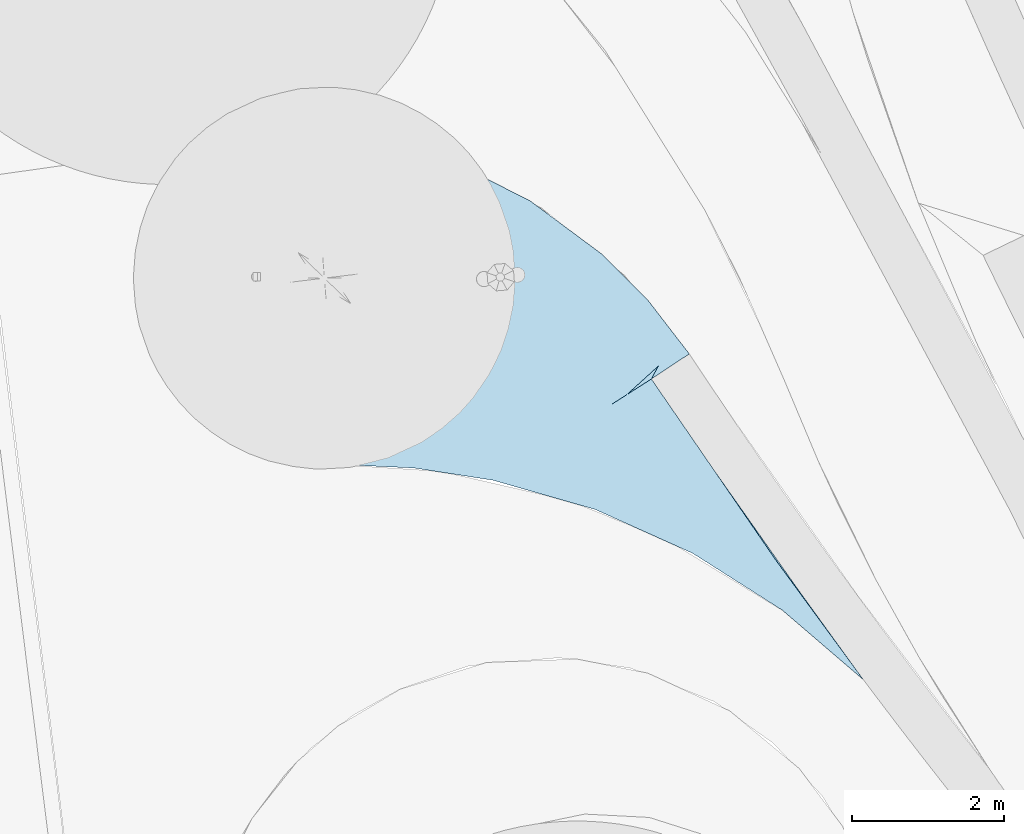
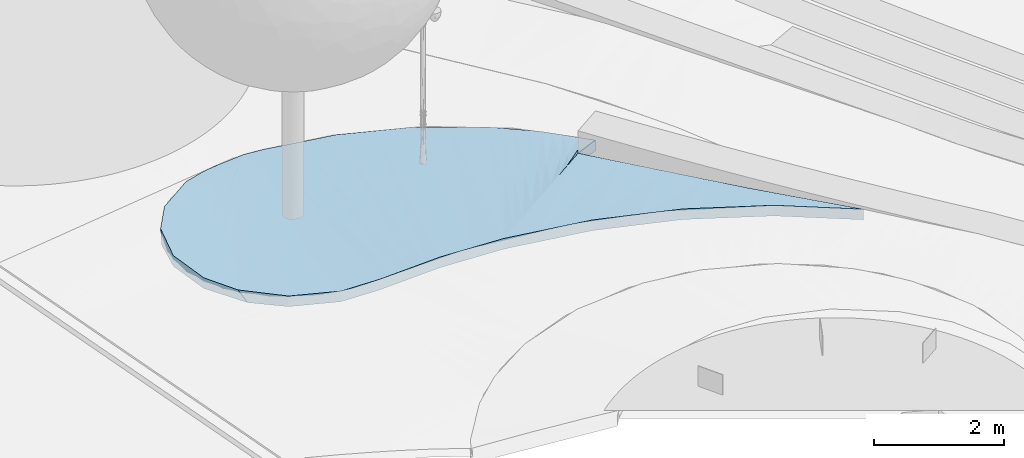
# One storey, part 42 of 75: 1 slab.
"""IFC2X3 building model written with IfcOpenShell, lengths in metres."""

from ifc_helpers import new_model, entity, si_unit, converted_unit, derived_unit, direction, origin, place, context, subcontext, project, spatial, face_set, surface_model, material, layer, layer_set, type_object, element, save


model = new_model("IFC2X3")

# Units and contexts
model_context = context("Model", 3, precision=1e-05, world=origin(), true_north=direction((6.123031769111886e-17, 1.0)))
body_context = subcontext(model_context, "Body", "Model", "MODEL_VIEW")
ifc_project = project(units=[si_unit("LENGTHUNIT", "METRE"), si_unit("AREAUNIT", "SQUARE_METRE"), si_unit("VOLUMEUNIT", "CUBIC_METRE"), converted_unit("PLANEANGLEUNIT", "DEGREE", entity("IfcRatioMeasure", 0.017453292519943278), si_unit("PLANEANGLEUNIT", "RADIAN"), dimensions=[0, 0, 0, 0, 0, 0, 0]), si_unit("MASSUNIT", "GRAM", prefix="KILO"), derived_unit("MASSDENSITYUNIT", [(si_unit("MASSUNIT", "GRAM", prefix="KILO"), 1), (si_unit("LENGTHUNIT", "METRE"), -3)]), derived_unit("IONCONCENTRATIONUNIT", [(si_unit("MASSUNIT", "GRAM", prefix="KILO"), 1), (si_unit("LENGTHUNIT", "METRE"), -3)]), derived_unit("MOMENTOFINERTIAUNIT", [(si_unit("LENGTHUNIT", "METRE"), 4)]), si_unit("TIMEUNIT", "SECOND"), si_unit("FREQUENCYUNIT", "HERTZ"), si_unit("THERMODYNAMICTEMPERATUREUNIT", "DEGREE_CELSIUS"), derived_unit("THERMALTRANSMITTANCEUNIT", [(si_unit("MASSUNIT", "GRAM", prefix="KILO"), 1), (si_unit("THERMODYNAMICTEMPERATUREUNIT", "KELVIN"), -1), (si_unit("TIMEUNIT", "SECOND"), -3)]), derived_unit("THERMALCONDUCTANCEUNIT", [(si_unit("MASSUNIT", "GRAM", prefix="KILO"), 1), (si_unit("THERMODYNAMICTEMPERATUREUNIT", "KELVIN"), -1), (si_unit("TIMEUNIT", "SECOND"), -3), (si_unit("LENGTHUNIT", "METRE"), 1)]), derived_unit("VOLUMETRICFLOWRATEUNIT", [(si_unit("LENGTHUNIT", "METRE"), 3), (si_unit("TIMEUNIT", "SECOND"), -1)]), derived_unit("MASSFLOWRATEUNIT", [(si_unit("MASSUNIT", "GRAM", prefix="KILO"), 1), (si_unit("TIMEUNIT", "SECOND"), -1)]), derived_unit("ROTATIONALFREQUENCYUNIT", [(si_unit("TIMEUNIT", "SECOND"), -1)]), si_unit("ELECTRICCURRENTUNIT", "AMPERE"), si_unit("ELECTRICVOLTAGEUNIT", "VOLT"), si_unit("POWERUNIT", "WATT"), si_unit("FORCEUNIT", "NEWTON", prefix="KILO"), si_unit("ILLUMINANCEUNIT", "LUX"), si_unit("LUMINOUSFLUXUNIT", "LUMEN"), si_unit("LUMINOUSINTENSITYUNIT", "CANDELA"), derived_unit("USERDEFINED", [(si_unit("MASSUNIT", "GRAM", prefix="KILO"), -1), (si_unit("LENGTHUNIT", "METRE"), -2), (si_unit("TIMEUNIT", "SECOND"), 3), (si_unit("LUMINOUSFLUXUNIT", "LUMEN"), 1)]), derived_unit("USERDEFINED", [(si_unit("MASSUNIT", "GRAM", prefix="KILO"), 1), (si_unit("TIMEUNIT", "SECOND"), -3), (si_unit("LENGTHUNIT", "METRE"), 3), (si_unit("ELECTRICCURRENTUNIT", "AMPERE"), -2)]), derived_unit("SOUNDPOWERUNIT", [(si_unit("MASSUNIT", "GRAM", prefix="KILO"), 1), (si_unit("TIMEUNIT", "SECOND"), -3), (si_unit("LENGTHUNIT", "METRE"), 2)]), derived_unit("SOUNDPRESSUREUNIT", [(si_unit("MASSUNIT", "GRAM", prefix="KILO"), 1), (si_unit("LENGTHUNIT", "METRE"), -1), (si_unit("TIMEUNIT", "SECOND"), -2)]), derived_unit("LINEARVELOCITYUNIT", [(si_unit("LENGTHUNIT", "METRE"), 1), (si_unit("TIMEUNIT", "SECOND"), -1)]), si_unit("PRESSUREUNIT", "PASCAL"), derived_unit("USERDEFINED", [(si_unit("MASSUNIT", "GRAM", prefix="KILO"), 1), (si_unit("LENGTHUNIT", "METRE"), -2), (si_unit("TIMEUNIT", "SECOND"), -2)]), derived_unit("LINEARFORCEUNIT", [(si_unit("MASSUNIT", "GRAM", prefix="KILO"), 1), (si_unit("TIMEUNIT", "SECOND"), -2)]), derived_unit("PLANARFORCEUNIT", [(si_unit("MASSUNIT", "GRAM", prefix="KILO"), 1), (si_unit("LENGTHUNIT", "METRE"), -1), (si_unit("TIMEUNIT", "SECOND"), -2)]), derived_unit("SPECIFICHEATCAPACITYUNIT", [(si_unit("THERMODYNAMICTEMPERATUREUNIT", "KELVIN"), -1), (si_unit("LENGTHUNIT", "METRE"), 2), (si_unit("TIMEUNIT", "SECOND"), -2)]), derived_unit("HEATINGVALUEUNIT", [(si_unit("LENGTHUNIT", "METRE"), 2), (si_unit("TIMEUNIT", "SECOND"), -2)]), derived_unit("VAPORPERMEABILITYUNIT", [(si_unit("LENGTHUNIT", "METRE"), -1), (si_unit("TIMEUNIT", "SECOND"), 1)]), derived_unit("DYNAMICVISCOSITYUNIT", [(si_unit("MASSUNIT", "GRAM", prefix="KILO"), 1), (si_unit("TIMEUNIT", "SECOND"), -1), (si_unit("LENGTHUNIT", "METRE"), -1)]), derived_unit("THERMALEXPANSIONCOEFFICIENTUNIT", [(si_unit("THERMODYNAMICTEMPERATUREUNIT", "KELVIN"), -1)]), derived_unit("MODULUSOFELASTICITYUNIT", [(si_unit("MASSUNIT", "GRAM", prefix="KILO"), 1), (si_unit("LENGTHUNIT", "METRE"), -1), (si_unit("TIMEUNIT", "SECOND"), -2)]), derived_unit("ISOTHERMALMOISTURECAPACITYUNIT", [(si_unit("LENGTHUNIT", "METRE"), 3), (si_unit("MASSUNIT", "GRAM", prefix="KILO"), -1)]), derived_unit("MOISTUREDIFFUSIVITYUNIT", [(si_unit("TIMEUNIT", "SECOND"), -1), (si_unit("LENGTHUNIT", "METRE"), 2)])], contexts=[model_context])

# Site, building, storey
site_placement = place(None, origin())
site = spatial("IfcSite", under=ifc_project, at=site_placement, Name="Default", CompositionType="ELEMENT")
building_placement = place(site_placement, origin())
building = spatial("IfcBuilding", under=site, at=building_placement, Name="Projeto", CompositionType="ELEMENT")
storey_placement = place(building_placement, origin())
storey = spatial("IfcBuildingStorey", under=building, at=storey_placement, Name="Nível 1", CompositionType="ELEMENT", Elevation=0.0)

# Slab
ifc_material = material(Name="floração tipo 2")
ifc_layer_1 = layer(ifc_material, 0.04)
ifc_layer_2 = layer(ifc_material, 0.16)
ifc_layer_set = layer_set([ifc_layer_1, ifc_layer_2], Name="Piso:Floração tipo 2")
slab_type = type_object("IfcSlabType", Name="Piso:Floração tipo 2", PredefinedType="FLOOR", material=ifc_layer_set)
slab_placement = place(storey_placement, origin())
element("IfcSlab", 1, at=slab_placement, inside=storey, type_object=slab_type, material=ifc_material, Name="Piso:Floração tipo 2", ObjectType="Piso:Floração tipo 2", PredefinedType="FLOOR", context=body_context, shape_type="SurfaceModel", body=[
    surface_model("IfcFaceBasedSurfaceModel", [(-16.79075301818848, -1.7870942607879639, -0.4210225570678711), (-15.700580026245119, -3.3943567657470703, -0.4726135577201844), (-16.79075301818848, -1.7870942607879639, -0.62102255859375), (-15.965935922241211, -2.987565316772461, -0.309715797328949), (-14.847187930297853, -4.574684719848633, -0.3613067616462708), (-13.993795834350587, -5.755012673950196, -0.05000000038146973), (-13.993795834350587, -5.755012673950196, -0.25000000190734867), (-15.141119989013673, -4.188036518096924, -0.19840901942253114), (-16.24701876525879, -4.085841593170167, -0.268181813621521), (-16.24701876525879, -4.085841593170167, -0.4681818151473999), (-15.950396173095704, -4.27423736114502, -0.4409090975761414), (-15.950396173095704, -4.27423736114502, -0.24090909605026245), (-16.56756780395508, -3.941763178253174, -0.49545453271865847), (-16.56756780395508, -3.941763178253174, -0.29545454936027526), (-16.888118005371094, -3.7976847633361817, -0.32272728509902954), (-16.888118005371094, -3.7976847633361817, -0.5227272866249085), (-17.52921608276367, -3.5095279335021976, -0.3772727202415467), (-17.52921608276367, -3.5095279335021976, -0.5772727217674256), (-14.79384700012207, -5.068322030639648, -0.33181819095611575), (-15.060530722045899, -4.839424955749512, -0.15909090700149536), (-14.644343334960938, -5.19664210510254, -0.11652904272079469), (-15.060530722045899, -4.839424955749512, -0.3590909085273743), (-15.653774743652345, -4.462633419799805, -0.21363636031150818), (-15.653774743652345, -4.462633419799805, -0.41363638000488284), (-14.527163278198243, -5.297219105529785, -0.3045454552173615), (-19.92270719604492, -2.9612515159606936, -0.5681818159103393), (-19.92270719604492, -2.9612515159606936, -0.7681818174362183), (-18.880575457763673, -3.122447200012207, -0.6863636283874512), (-18.880575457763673, -3.122447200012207, -0.4863636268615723), (-18.204895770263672, -3.3159874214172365, -0.4318181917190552), (-18.204895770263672, -3.3159874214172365, -0.6318181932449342), (-20.976396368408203, -2.9128733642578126, -0.6500000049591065), (-20.976396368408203, -2.9128733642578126, -0.8500000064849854), (-18.542735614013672, -3.219217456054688, -0.6590908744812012), (-18.542735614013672, -3.219217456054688, -0.45909090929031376), (-21.625245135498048, -2.843302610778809, -0.6874146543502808), (-21.625245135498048, -2.843302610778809, -0.8874146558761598), (-22.827827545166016, -2.0393436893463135, -0.9715975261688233), (-22.361516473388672, -2.4959313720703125, -0.734182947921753), (-22.92165902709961, -1.9051963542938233, -0.7809512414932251), (-22.361516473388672, -2.4959313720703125, -0.9341829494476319), (-23.190621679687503, -1.310591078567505, -1.0183658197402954), (-23.190621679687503, -1.310591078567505, -0.8183658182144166), (-23.264421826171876, -0.4998884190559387, -0.8651341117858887), (-23.264421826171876, -0.4998884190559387, -1.0651341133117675), (-23.03917976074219, 0.282394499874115, -0.9119024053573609), (-23.107245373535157, 0.13350945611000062, -1.102548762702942), (-22.66297946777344, 0.8156776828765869, -1.1493170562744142), (-22.66297946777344, 0.8156776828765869, -0.9493170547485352), (-22.00153612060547, 1.2902863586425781, -0.9960853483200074), (-22.00153612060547, 1.2902863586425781, -1.1960853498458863), (-21.375911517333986, 1.4758750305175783, -1.0334999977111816), (-21.375911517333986, 1.4758750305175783, -1.2334999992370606), (-21.046596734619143, 1.4973330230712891, -1.2160999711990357), (-20.881837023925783, 1.489552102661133, -1.0073999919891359), (-20.55600574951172, 1.4371544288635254, -0.9899999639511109), (-20.55600574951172, 1.4371544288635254, -1.1899999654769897), (-19.435614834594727, 1.0918789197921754, -0.892222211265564), (-18.389740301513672, 0.5623014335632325, -0.7944444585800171), (-18.389740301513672, 0.5623014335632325, -0.994444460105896), (-19.435614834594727, 1.0918789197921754, -1.092222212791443), (-17.44829078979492, -0.13644401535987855, -0.8966666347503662), (-17.44829078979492, -0.13644401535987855, -0.6966666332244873), (-16.827344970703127, -0.7594328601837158, -0.6233333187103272), (-16.827344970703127, -0.7594328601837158, -0.8233333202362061), (-16.290397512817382, -1.4564109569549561, -0.550000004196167), (-16.290397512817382, -1.4564109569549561, -0.750000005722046), (-21.08058070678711, -0.6975793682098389, -0.8386370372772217), (-21.469054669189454, -1.4980940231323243, -0.7888765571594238), (-21.83813214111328, -0.3888103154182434, -0.8800151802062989), (-21.778545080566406, -0.04439095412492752, -0.9038703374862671), (-21.306222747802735, 0.47632917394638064, -0.9362142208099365), (-21.765071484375, -0.5485992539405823, -0.8677176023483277), (-21.270927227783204, 0.3277695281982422, -0.9244546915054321), (-20.612304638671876, 1.446197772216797, -0.993006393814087), (-20.79618411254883, 0.11100292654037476, -0.8920471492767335), (-22.502296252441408, 0.10828793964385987, -0.9115805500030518), (-23.22752175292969, -0.9052397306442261, -0.8417500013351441), (-20.637465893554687, 1.4502393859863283, -0.9943499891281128), (-20.67819364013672, 1.4567818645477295, -0.9965250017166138), (-21.046217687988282, 0.05485468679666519, -0.8974910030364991), (-20.75965378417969, 1.4698668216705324, -1.0008750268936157), (-20.80038153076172, 1.4764093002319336, -1.0030499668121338), (-21.300818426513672, -2.8780813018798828, -0.6687072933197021), (-21.028830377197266, -1.4049466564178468, -0.7785696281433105), (-22.386891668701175, -0.7962072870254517, -0.8545337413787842), (-22.46671237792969, -0.5798933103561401, -0.8686788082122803), (-21.75422098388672, 0.24508260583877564, -0.9239713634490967), (-22.09645125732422, 0.621450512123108, -0.9480975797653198), (-22.195707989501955, 0.20850030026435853, -0.9207648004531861), (-21.738421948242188, 0.7913512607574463, -0.9619178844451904), (-21.53866669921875, 0.878980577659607, -0.968135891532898), (-22.542924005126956, -0.37903761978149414, -0.881119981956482), (-21.285698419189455, 1.4783617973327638, -1.0287343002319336), (-21.48685823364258, 1.4445815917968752, -1.022990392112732), (-21.648134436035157, 1.3801186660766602, -1.0116131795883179), (-21.036239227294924, 1.4852382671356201, -1.015556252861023), (-21.590642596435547, 1.3708256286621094, -1.010723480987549), (-21.25239580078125, 1.4792799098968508, -1.0269750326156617), (-21.31900103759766, 1.4774438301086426, -1.0304936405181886), (-20.762679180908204, -0.7014066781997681, -0.8228491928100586), (-21.482165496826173, -0.6592535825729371, -0.8543214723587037), (-21.99337847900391, -2.6696073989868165, -0.7107987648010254), (-21.688806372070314, -0.7582092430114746, -0.8511399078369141), (-22.31830980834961, -1.013790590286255, -0.8396150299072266), (-22.641583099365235, -2.200559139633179, -0.7575670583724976), (-21.809029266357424, 0.38389920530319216, -0.9336831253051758), (-21.86996508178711, 1.314218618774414, -1.0010640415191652), (-21.653299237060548, 1.4058602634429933, -1.015246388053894), (-21.856005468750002, 1.2335236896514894, -0.9940783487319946), (-21.926022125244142, 1.2562292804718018, -0.994816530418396), (-22.19135709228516, 1.0241294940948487, -0.972683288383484), (-22.33225314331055, 1.0529732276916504, -0.9727012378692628), (-21.221516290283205, 1.4801310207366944, -1.0253437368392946), (-22.85107728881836, 0.5490333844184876, -0.9306097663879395), (-22.045184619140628, 0.8602091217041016, -0.9642847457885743), (-22.325158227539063, 0.5591612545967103, -0.9413030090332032), (-22.646394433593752, 0.44096915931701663, -0.928861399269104), (-21.15975726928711, 1.4818335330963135, -1.022081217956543), (-21.19063677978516, 1.480982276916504, -1.0237125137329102), (-21.69431766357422, 1.2544501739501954, -0.9977660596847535), (-22.045777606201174, 1.0182133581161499, -0.9749366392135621), (-20.943600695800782, 1.487791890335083, -1.0106625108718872), (-21.097998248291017, 1.483535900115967, -1.0188187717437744), (-21.695636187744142, 1.0188694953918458, -0.9785313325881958), (-22.406834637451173, 0.7189833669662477, -0.9495599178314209), (-21.860749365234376, 1.0569411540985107, -0.9801810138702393), (-21.59750496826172, 1.410135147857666, -1.0202477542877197), (-20.97448020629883, 1.4869406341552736, -1.0122937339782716), (-21.005359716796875, 1.4860895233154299, -1.0139250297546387), (-23.056136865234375, -1.6078919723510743, -0.7996585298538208), (-20.718923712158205, 1.463324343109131, -0.9987000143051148), (-23.15180079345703, -0.10874711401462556, -0.8885182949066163), (-20.841111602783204, 1.482951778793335, -1.0052249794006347), (-21.06711873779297, 1.4843870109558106, -1.0171874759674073), (-20.912721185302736, 1.4886430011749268, -1.00903121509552), (-21.128877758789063, 1.4826846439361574, -1.0204499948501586), (-21.13093577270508, -0.5099346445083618, -1.0556094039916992), (-20.645586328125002, 1.4481319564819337, -1.1947656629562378), (-20.885185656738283, -0.033666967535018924, -1.084245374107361), (-21.493648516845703, -1.2710809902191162, -1.007436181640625), (-21.428468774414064, -1.6989003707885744, -0.9715868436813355), (-21.64955760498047, 1.2556829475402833, -1.1981629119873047), (-21.170089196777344, 1.4892500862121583, -1.2226249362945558), (-21.629686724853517, 1.2161099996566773, -1.1946647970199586), (-21.206217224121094, -2.8882269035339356, -0.8632522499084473), (-21.16333612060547, -1.5200146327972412, -0.9754291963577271), (-21.086505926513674, 0.11432409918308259, -1.1034559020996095), (-21.501975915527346, 0.5299379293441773, -1.1425857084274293), (-20.83196332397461, 1.4709722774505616, -1.20468126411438), (-21.81580559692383, -0.1278088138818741, -1.0982661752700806), (-21.99337847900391, -2.6696073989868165, -0.9107987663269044), (-21.842210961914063, -1.1710529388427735, -1.0232251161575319), (-21.54345942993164, 0.9053462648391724, -1.17010219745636), (-22.187401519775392, 0.21820217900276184, -1.121444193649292), (-21.895668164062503, 0.7190546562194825, -1.1562330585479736), (-21.571685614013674, 0.05949443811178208, -1.109348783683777), (-21.723843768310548, -0.4961713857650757, -1.0709718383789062), (-22.151178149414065, -0.9745325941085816, -1.0413232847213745), (-23.185831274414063, -0.1831907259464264, -1.0838414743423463), (-22.55844166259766, 0.4044123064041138, -1.1283549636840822), (-22.578063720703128, 0.21474475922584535, -1.1169281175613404), (-21.739473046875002, 0.5460532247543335, -1.1448112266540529), (-21.970998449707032, 0.06174916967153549, -1.1118662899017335), (-22.5224926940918, -0.36041993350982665, -1.0824318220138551), (-22.594669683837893, -2.267634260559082, -0.9528902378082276), (-21.8960751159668, 1.212787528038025, -1.1917365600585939), (-21.573950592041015, 1.3902293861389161, -1.2133851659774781), (-21.252419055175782, 1.4839001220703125, -1.2269749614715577), (-21.688720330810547, 1.383074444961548, -1.214792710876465), (-21.545880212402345, 1.43977301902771, -1.222249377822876), (-22.0802150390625, 0.9921160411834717, -1.1725996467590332), (-22.048686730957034, 1.083553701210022, -1.1794317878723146), (-22.33225314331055, 1.0529732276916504, -1.1727012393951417), (-21.43744031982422, 1.4612876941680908, -1.2272143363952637), (-21.612969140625, 1.405375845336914, -1.2155012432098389), (-21.319012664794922, 1.4795726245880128, -1.2304936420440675), (-20.77063916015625, 1.4634571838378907, -1.2014187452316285), (-21.293109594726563, 0.15235547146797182, -1.1116780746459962), (-20.923948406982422, 1.482244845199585, -1.2095750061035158), (-20.89328748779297, 1.4784872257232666, -1.2079437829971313), (-20.7399782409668, 1.4596995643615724, -1.1997875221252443), (-20.70931499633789, 1.4559420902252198, -1.198156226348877), (-20.61251625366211, 1.4440794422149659, -1.1930063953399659), (-22.153768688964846, -0.4126682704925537, -1.0800343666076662), (-22.445057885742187, -1.118881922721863, -1.032906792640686), (-20.95461165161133, 1.4860023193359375, -1.2112062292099), (-23.22752175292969, -0.9052397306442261, -1.041750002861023), (-22.59595565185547, -0.006391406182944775, -1.1035230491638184), (-23.009225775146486, -1.6749670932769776, -0.9949817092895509), (-20.762679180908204, -0.7014066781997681, -1.0228491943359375), (-21.293583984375, 1.4812249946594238, -1.2291499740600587), (-21.906602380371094, 1.283892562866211, -1.1975762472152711), (-22.106992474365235, 0.8963267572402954, -1.165804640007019), (-22.53695227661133, 0.5531050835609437, -1.1373685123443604), (-22.88510776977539, 0.4745897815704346, -1.1259329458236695), (-21.211254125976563, 1.4865751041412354, -1.2247999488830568), (-21.128924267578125, 1.4919250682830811, -1.2204500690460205), (-22.00444757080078, 0.87900237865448, -1.1660477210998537), (-21.913225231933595, 0.8316243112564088, -1.163763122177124), (-20.678654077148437, 1.4521846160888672, -1.1965250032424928), (-21.015933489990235, 1.4935174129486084, -1.2144687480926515), (-20.98527257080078, 1.489759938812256, -1.212837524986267), (-21.08776166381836, 1.494600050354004, -1.2182749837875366), (-21.43345219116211, -0.5606124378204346, -1.06068605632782), (-20.801302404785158, 1.4672146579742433, -1.2030499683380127), (-20.862624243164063, 1.4747297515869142, -1.2063124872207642), (-18.336266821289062, -3.278368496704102, -0.44242310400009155), (-16.378344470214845, -2.3873295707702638, -0.3653691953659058), (-14.280626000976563, -5.363268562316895, -0.08710225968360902), (-14.52716792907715, -5.297225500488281, -0.10454545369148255), (-14.567457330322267, -4.971524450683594, -0.12420450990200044), (-14.854288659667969, -4.5797800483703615, -0.1613067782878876), (-15.55352737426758, -3.5878001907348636, -0.25406241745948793), (-16.698238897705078, -1.6160105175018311, -0.4963190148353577), (-16.456796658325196, -1.2404241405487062, -0.5727255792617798), (-16.85552580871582, -1.6116902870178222, -0.5069742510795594), (-16.982592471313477, -0.6036961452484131, -0.6416666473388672), (-17.41787055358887, -1.6076350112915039, -0.5441304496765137), (-17.254454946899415, -1.6069881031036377, -0.5334752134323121), (-16.54057526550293, -1.62175260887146, -0.4855112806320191), (-16.623196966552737, -1.0244371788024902, -0.5954511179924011), (-17.02393878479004, -1.6420721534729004, -0.5122493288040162), (-18.096893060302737, -2.6216943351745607, -0.4618607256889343), (-17.83566481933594, -2.4547742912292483, -0.4536930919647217), (-17.1145646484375, -1.9940043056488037, -0.43114697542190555), (-17.847453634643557, -1.6164219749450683, -0.5716394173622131), (-18.6193483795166, -2.955534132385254, -0.47819599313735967), (-18.35812130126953, -2.7886140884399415, -0.470028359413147), (-17.998288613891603, -1.6219334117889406, -0.5811390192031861), (-17.639172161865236, -1.6108820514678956, -0.5583889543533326), (-17.313208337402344, -2.1209343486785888, -0.4373578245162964), (-16.725275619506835, -0.8919389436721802, -0.6093922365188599), (-17.57443657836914, -2.287854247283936, -0.44552545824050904), (-17.137830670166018, -0.4479515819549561, -0.6599999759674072), (-17.293068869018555, -0.29220700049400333, -0.6783333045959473), (-18.231024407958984, -1.7682692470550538, -0.5817387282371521), (-16.518209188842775, -2.1889097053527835, -0.5839203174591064), (-15.973121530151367, -2.992540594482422, -0.5097157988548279), (-15.273882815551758, -3.9845201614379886, -0.4169601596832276), (-14.423467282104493, -5.386230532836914, -0.29394050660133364), (-14.420490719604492, -5.164848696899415, -0.30565339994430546), (-16.24566535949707, -2.590725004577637, -0.5468180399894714), (-16.85552580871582, -1.6116902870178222, -0.7069742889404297), (-16.456796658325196, -1.2404241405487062, -0.7727255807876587), (-16.698238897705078, -1.6160105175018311, -0.6963190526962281), (-17.41787055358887, -1.6076350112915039, -0.7441304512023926), (-16.982592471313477, -0.6036961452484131, -0.8416666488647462), (-17.254454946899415, -1.6069881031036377, -0.7334752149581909), (-16.54057526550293, -1.62175260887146, -0.685511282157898), (-17.02393878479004, -1.6420721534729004, -0.712249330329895), (-16.623196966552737, -1.0244371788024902, -0.7954511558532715), (-17.83566481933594, -2.4547742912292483, -0.6536930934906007), (-18.096893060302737, -2.6216943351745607, -0.6618607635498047), (-17.1145646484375, -1.9940043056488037, -0.631146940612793), (-18.35812130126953, -2.7886140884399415, -0.670028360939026), (-18.6193483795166, -2.955534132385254, -0.67819603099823), (-17.847453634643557, -1.6164219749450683, -0.7716394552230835), (-17.998288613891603, -1.6219334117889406, -0.7811390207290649), (-17.639172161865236, -1.6108820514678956, -0.7583889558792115), (-17.313208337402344, -2.1209343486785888, -0.6373578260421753), (-16.725275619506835, -0.8919389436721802, -0.8093922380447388), (-17.57443657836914, -2.287854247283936, -0.6455254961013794), (-17.137830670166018, -0.4479515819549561, -0.8599999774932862), (-17.293068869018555, -0.29220700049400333, -0.8783333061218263), (-18.231024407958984, -1.7682692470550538, -0.7817386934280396), (-20.449551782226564, -2.9370771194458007, -0.609090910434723), (-19.995812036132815, 1.2645161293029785, -0.9411110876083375), (-20.18613065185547, -2.9491792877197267, -0.5886363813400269), (-19.662176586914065, -3.0015743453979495, -0.5477272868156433), (-18.912681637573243, 0.8270839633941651, -0.8433333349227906), (-20.712972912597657, -2.924975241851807, -0.629545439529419), (-19.401642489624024, -3.041867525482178, -0.5272727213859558), (-17.919027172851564, 0.21291383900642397, -0.7455555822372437), (-19.2300994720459, -3.068397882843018, -0.5138048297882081), (-19.995812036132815, 1.2645161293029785, -1.1411110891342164), (-20.449551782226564, -2.9370771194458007, -0.8090908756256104), (-20.18613065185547, -2.9491792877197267, -0.7886363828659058), (-18.912681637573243, 0.8270839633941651, -1.0433333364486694), (-19.662176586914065, -3.0015743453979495, -0.7477272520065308), (-17.919027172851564, 0.21291383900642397, -0.9455555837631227), (-19.401642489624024, -3.041867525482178, -0.7272727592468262), (-19.2300994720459, -3.068397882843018, -0.7138048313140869), (-20.712972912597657, -2.924975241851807, -0.8295454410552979)], [face_set([[[0, 1, 2]], [[3, 1, 0]], [[1, 3, 4]], [[5, 6, 7]], [[4, 7, 6]], [[7, 4, 3]], [[8, 9, 10, 11]], [[12, 13, 14, 15]], [[16, 17, 15, 14]], [[9, 8, 13, 12]], [[18, 19, 20]], [[19, 18, 21]], [[21, 19, 22, 23]], [[5, 24, 20]], [[5, 6, 24]], [[25, 26, 27, 28]], [[11, 10, 23, 22]], [[17, 16, 29, 30]], [[31, 32, 26, 25]], [[28, 27, 33, 34]], [[34, 33, 30, 29]], [[20, 24, 18]], [[32, 31, 35, 36]], [[37, 38, 39]], [[36, 35, 38, 40]], [[41, 39, 42]], [[41, 37, 39]], [[38, 37, 40]], [[41, 42, 43, 44]], [[43, 45, 46]], [[47, 48, 49, 50]], [[45, 48, 47]], [[50, 49, 51, 52]], [[44, 43, 46]], [[47, 46, 45]], [[51, 53, 52]], [[53, 51, 54]], [[54, 55, 56]], [[54, 56, 53]], [[57, 58, 59, 60]], [[55, 57, 60, 56]], [[61, 59, 58, 62]], [[62, 63, 64, 61]], [[63, 65, 66, 64]], [[35, 67, 68]], [[69, 70, 71]], [[72, 71, 73]], [[55, 74, 75]], [[43, 76, 77]], [[78, 79, 80]], [[81, 82, 71]], [[35, 83, 84]], [[85, 86, 87]], [[76, 43, 88]], [[89, 90, 91]], [[42, 92, 86]], [[93, 94, 95]], [[67, 74, 78]], [[74, 67, 75]], [[88, 96, 90]], [[78, 80, 67]], [[97, 98, 93]], [[93, 99, 94]], [[100, 84, 31]], [[101, 102, 38]], [[35, 102, 68]], [[73, 101, 103]], [[84, 75, 67]], [[85, 70, 104]], [[105, 39, 104]], [[82, 71, 70]], [[86, 106, 87]], [[107, 49, 108]], [[94, 108, 95]], [[97, 109, 110]], [[111, 112, 109]], [[97, 113, 109]], [[114, 48, 111]], [[115, 116, 117]], [[118, 119, 120]], [[97, 113, 98]], [[120, 118, 121]], [[77, 92, 42]], [[91, 122, 106]], [[88, 90, 76]], [[115, 123, 124]], [[125, 126, 115]], [[127, 49, 108]], [[90, 128, 129]], [[130, 86, 85]], [[68, 101, 80]], [[68, 102, 101]], [[101, 79, 131]], [[67, 80, 68]], [[79, 80, 101]], [[117, 125, 115]], [[88, 43, 132]], [[51, 127, 108]], [[51, 94, 99]], [[51, 108, 94]], [[42, 86, 130]], [[39, 85, 104]], [[89, 77, 76]], [[133, 70, 87]], [[89, 106, 92]], [[86, 92, 106]], [[89, 92, 77]], [[130, 85, 39]], [[70, 85, 87]], [[69, 72, 105]], [[104, 70, 69]], [[104, 69, 105]], [[38, 105, 103]], [[72, 69, 71]], [[73, 71, 81]], [[87, 133, 54]], [[73, 131, 81]], [[72, 73, 103]], [[101, 73, 131]], [[72, 103, 105]], [[103, 101, 38]], [[107, 112, 110]], [[112, 111, 48]], [[67, 35, 84]], [[55, 75, 100]], [[31, 84, 83]], [[100, 75, 84]], [[70, 82, 133]], [[97, 93, 95]], [[110, 97, 95]], [[109, 113, 120]], [[95, 110, 107]], [[110, 109, 112]], [[109, 120, 111]], [[108, 107, 95]], [[49, 107, 112]], [[121, 114, 111]], [[121, 111, 120]], [[121, 118, 126]], [[120, 119, 113]], [[126, 125, 121]], [[124, 116, 115]], [[45, 114, 125]], [[96, 134, 124]], [[89, 76, 90]], [[91, 122, 128]], [[90, 129, 96]], [[106, 54, 135]], [[128, 91, 90]], [[89, 91, 106]], [[121, 125, 114]], [[126, 123, 136]], [[45, 125, 117]], [[117, 132, 45]], [[88, 132, 116]], [[117, 116, 132]], [[88, 116, 124]], [[88, 124, 96]], [[124, 134, 123]], [[115, 126, 123]], [[118, 126, 136]], [[87, 106, 54]], [[135, 122, 106]], [[137, 138, 139]], [[140, 137, 141]], [[142, 143, 144]], [[145, 36, 146]], [[137, 140, 147]], [[148, 149, 150]], [[141, 137, 146]], [[151, 40, 152]], [[153, 154, 155]], [[156, 157, 158]], [[159, 160, 161]], [[162, 163, 164]], [[152, 165, 157]], [[166, 167, 168]], [[169, 50, 170]], [[142, 171, 172]], [[140, 141, 151]], [[47, 173, 166]], [[174, 175, 176]], [[177, 178, 157]], [[162, 179, 180]], [[137, 147, 138]], [[178, 181, 182]], [[139, 183, 56]], [[184, 163, 148]], [[162, 180, 163]], [[185, 158, 37]], [[153, 186, 162]], [[154, 187, 188]], [[189, 184, 185]], [[163, 180, 148]], [[139, 146, 137]], [[190, 32, 145]], [[175, 170, 50]], [[176, 175, 191]], [[50, 175, 192]], [[192, 173, 50]], [[193, 171, 144]], [[175, 191, 167]], [[193, 194, 195]], [[196, 142, 143]], [[160, 46, 194]], [[161, 44, 159]], [[197, 198, 144]], [[160, 198, 199]], [[155, 199, 53]], [[155, 188, 161]], [[189, 41, 163]], [[146, 190, 145]], [[182, 200, 147]], [[139, 190, 146]], [[190, 139, 56]], [[192, 166, 173]], [[192, 175, 167]], [[166, 196, 168]], [[192, 167, 166]], [[191, 167, 168]], [[160, 159, 46]], [[188, 44, 161]], [[199, 155, 161]], [[201, 202, 155]], [[153, 155, 202]], [[164, 41, 187]], [[44, 188, 187]], [[154, 188, 155]], [[161, 160, 199]], [[194, 198, 160]], [[194, 193, 198]], [[171, 195, 172]], [[198, 203, 199]], [[195, 194, 46]], [[171, 193, 195]], [[193, 144, 198]], [[196, 142, 166]], [[144, 197, 143]], [[142, 144, 171]], [[166, 142, 172]], [[172, 47, 166]], [[47, 172, 195]], [[204, 151, 152]], [[183, 139, 138]], [[138, 147, 200]], [[204, 147, 140]], [[140, 151, 204]], [[36, 151, 141]], [[204, 152, 178]], [[204, 182, 147]], [[36, 141, 146]], [[178, 182, 204]], [[157, 165, 158]], [[177, 156, 205]], [[178, 152, 157]], [[177, 181, 178]], [[156, 158, 150]], [[165, 152, 40]], [[186, 179, 162]], [[154, 162, 164]], [[154, 164, 187]], [[41, 164, 163]], [[202, 186, 153]], [[154, 153, 162]], [[150, 158, 185]], [[37, 158, 165]], [[150, 185, 184]], [[185, 37, 189]], [[150, 184, 148]], [[163, 184, 189]], [[157, 156, 177]], [[180, 206, 148]], [[149, 156, 150]], [[148, 206, 149]], [[205, 156, 149]], [[52, 174, 176]], [[169, 170, 52]], [[175, 174, 170]], [[174, 52, 170]], [[203, 199, 53]], [[203, 197, 198]], [[155, 53, 201]], [[66, 65, 0, 2]], [[7, 8, 22]], [[0, 28, 207]], [[207, 208, 0]], [[16, 3, 208]], [[3, 16, 14]], [[16, 208, 207]], [[5, 209, 210]], [[19, 211, 212]], [[213, 3, 14]], [[212, 7, 22]], [[8, 7, 213]], [[19, 212, 22]], [[8, 213, 14]], [[211, 19, 210]], [[209, 211, 210]], [[214, 215, 216]], [[63, 217, 218]], [[219, 63, 218]], [[214, 0, 220, 65]], [[216, 221, 222]], [[218, 223, 224]], [[225, 214, 216]], [[226, 227, 228]], [[229, 227, 226]], [[230, 228, 223]], [[215, 221, 216]], [[216, 225, 231]], [[221, 232, 222]], [[225, 214, 0]], [[65, 215, 214]], [[219, 232, 63]], [[231, 216, 222]], [[222, 231, 233]], [[232, 219, 222]], [[219, 233, 224]], [[222, 219, 233]], [[217, 234, 230]], [[219, 218, 224]], [[218, 217, 230]], [[226, 234, 235]], [[62, 236, 229]], [[230, 223, 218]], [[226, 230, 234]], [[235, 229, 226]], [[230, 226, 228]], [[229, 28, 227]], [[62, 229, 235]], [[28, 229, 236]], [[27, 2, 237]], [[1, 15, 238]], [[1, 239, 9]], [[240, 21, 241]], [[4, 241, 21]], [[17, 242, 238]], [[4, 23, 239]], [[9, 239, 23]], [[242, 17, 30]], [[241, 6, 240]], [[4, 21, 23]], [[237, 30, 27]], [[237, 242, 30]], [[17, 238, 15]], [[1, 9, 15]], [[243, 244, 245]], [[246, 247, 64]], [[246, 64, 248]], [[66, 245, 2, 249]], [[250, 251, 243]], [[252, 253, 246]], [[243, 245, 254]], [[255, 256, 257]], [[257, 256, 258]], [[253, 255, 259]], [[244, 251, 243]], [[243, 254, 260]], [[251, 261, 250]], [[254, 245, 2]], [[66, 244, 245]], [[64, 261, 248]], [[250, 243, 260]], [[250, 260, 262]], [[250, 248, 261]], [[248, 262, 252]], [[262, 248, 250]], [[259, 263, 247]], [[252, 246, 248]], [[259, 247, 246]], [[264, 263, 257]], [[258, 265, 61]], [[246, 253, 259]], [[263, 259, 257]], [[257, 258, 264]], [[255, 257, 259]], [[256, 27, 258]], [[264, 258, 61]], [[265, 258, 27]], [[266, 57, 267]], [[57, 266, 268]], [[269, 270, 25]], [[267, 271, 266]], [[272, 273, 58]], [[273, 272, 274]], [[55, 271, 267]], [[28, 273, 274]], [[31, 271, 55]], [[270, 269, 58]], [[28, 62, 273]], [[268, 25, 270]], [[269, 272, 58]], [[57, 268, 270]], [[275, 60, 276]], [[277, 276, 60]], [[26, 278, 279]], [[59, 280, 281]], [[282, 281, 280]], [[275, 283, 56]], [[282, 280, 27]], [[56, 283, 32]], [[59, 279, 278]], [[280, 61, 27]], [[276, 283, 275]], [[278, 26, 277]], [[59, 281, 279]], [[278, 277, 60]]])]),
])

save(model, "model.ifc")
